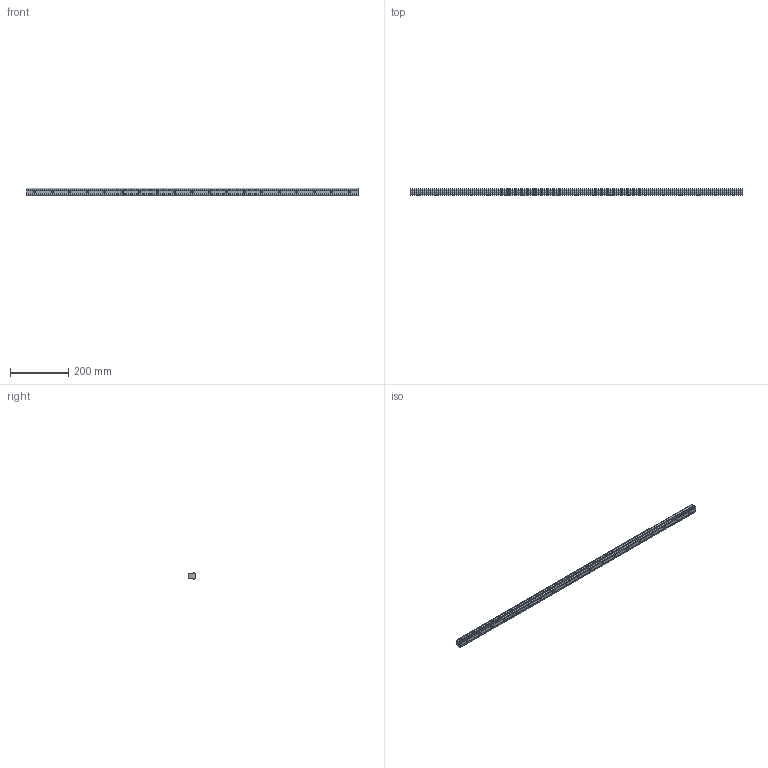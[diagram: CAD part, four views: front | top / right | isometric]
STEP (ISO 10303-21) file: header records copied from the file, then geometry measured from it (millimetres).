
FILE_DESCRIPTION (( 'STEP AP203' ), '1' );
FILE_NAME ('L1018.25R-1140.step', '2023-08-06T10:35:55', ( '' ), ( '' ), 'SwSTEP 2.0', 'SolidWorks 2019', '' );
FILE_SCHEMA (( 'CONFIG_CONTROL_DESIGN' ));
Length unit declared in the file: millimetre
Products named in the file (1): L1018.25R-1140
Bounding box: 1140 x 21.8 x 25 mm (x, y, z)
Volume: 474112.4 mm3; surface area: 114047 mm2
Topology: 1 solids, 1 shells, 200 faces, 461 edges, 263 vertices
Faces by surface type: cylinder 79, cone 76, plane 45
Entity records: 5444 total; most frequent: DIRECTION 1021, CARTESIAN_POINT 887, ORIENTED_EDGE 846, EDGE_CURVE 423, AXIS2_PLACEMENT_3D 397, VERTEX_POINT 263, EDGE_LOOP 238, LINE 227
